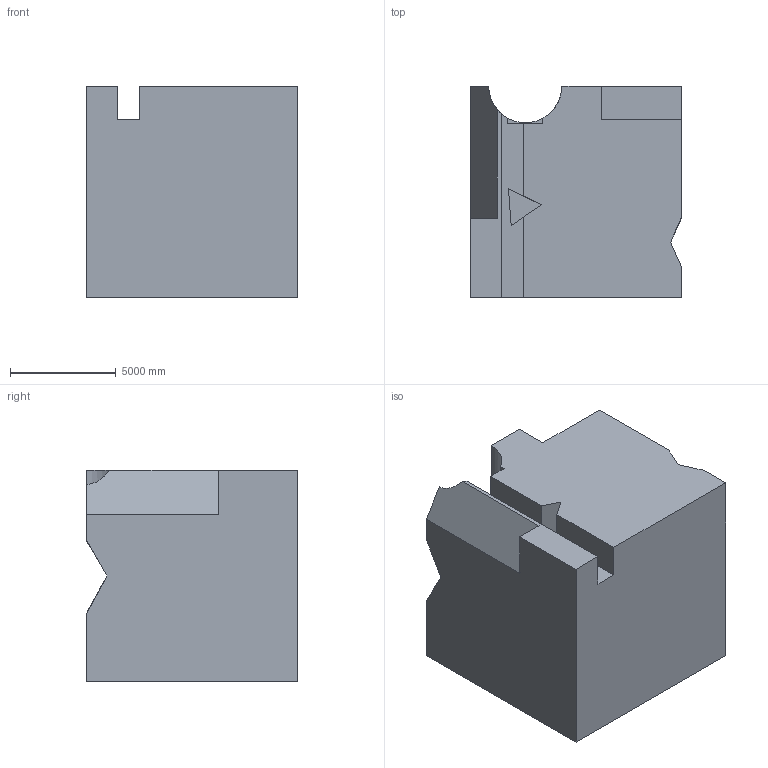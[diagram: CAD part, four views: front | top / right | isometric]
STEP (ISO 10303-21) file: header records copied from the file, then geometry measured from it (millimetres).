
FILE_DESCRIPTION (( 'STEP AP203' ), '1' );
FILE_NAME ('345.STEP', '2022-09-07T15:19:54', ( 'user' ), ( '' ), 'SwSTEP 2.0', 'SolidWorks 2021', '' );
FILE_SCHEMA (( 'CONFIG_CONTROL_DESIGN' ));
Length unit declared in the file: centimetre
Products named in the file (1): 345
Bounding box: 10000 x 10000 x 10000 mm (x, y, z)
Volume: 893051081799.4 mm3; surface area: 654535333.6 mm2
Topology: 1 solids, 1 shells, 35 faces, 99 edges, 66 vertices
Faces by surface type: plane 34, cylinder 1
Entity records: 1195 total; most frequent: CARTESIAN_POINT 216, ORIENTED_EDGE 198, DIRECTION 171, EDGE_CURVE 99, LINE 89, VECTOR 89, VERTEX_POINT 66, AXIS2_PLACEMENT_3D 41
